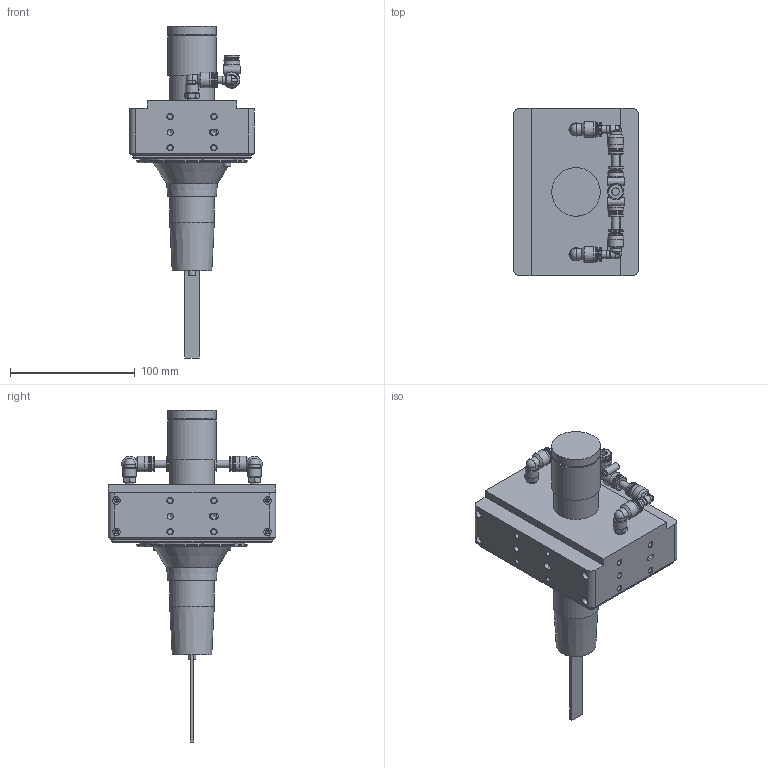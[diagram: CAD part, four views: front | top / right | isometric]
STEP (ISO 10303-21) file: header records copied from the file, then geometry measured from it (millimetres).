
FILE_DESCRIPTION(/* description */ (''),/* implementation_level */ '2;1');
FILE_NAME(/* name */ '\\Ds713\02.研發專案\T_機構研發\12_產品\AC200(AC-F01改款_2019\X2\6B635F0F752254C1\X0\)\4.CAD\0.簡化3D\AC200-000-000-A_Substitute_2.stp',/* time_stamp */ '2020-03-25T13:59:39+08:00',/* author */ ('PC-acer'),/* organization */ (''),/* preprocessor_version */ 'ST-DEVELOPER v15.2',/* originating_system */ 'Autodesk Inventor 2014',/* authorisation */ '');
FILE_SCHEMA (('AUTOMOTIVE_DESIGN { 1 0 10303 214 3 1 1 }'));
Length unit declared in the file: millimetre
Products named in the file (1): AC200-000-000-A_Substitute_2
Bounding box: 100 x 134 x 265.8 mm (x, y, z)
Volume: 1590165.2 mm3; surface area: 172935 mm2
Topology: 2 solids, 8 shells, 550 faces, 1271 edges, 806 vertices
Faces by surface type: plane 222, cylinder 176, cone 126, torus 14, sphere 10, bspline 2
Full cylindrical faces by diameter (mm): 2.459 x12, 3.2 x2, 3.5 x14, 4.134 x16, 4.917 x4, 5 x6, 5.5 x2, 6 x17, 6.5 x2, 7.8 x4, 8 x4, 8.1 x7, 10.5 x2, 11.5 x14, 11.8 x7, 12.5 x4, 13 x2, 35.8 x1, 36 x1, 36.95 x1, 38.95 x2, 68 x1, 90 x1
Entity records: 14434 total; most frequent: CARTESIAN_POINT 2867, DIRECTION 2404, ORIENTED_EDGE 1834, AXIS2_PLACEMENT_3D 1044, EDGE_CURVE 915, EDGE_LOOP 878, VERTEX_POINT 697, STYLED_ITEM 551
